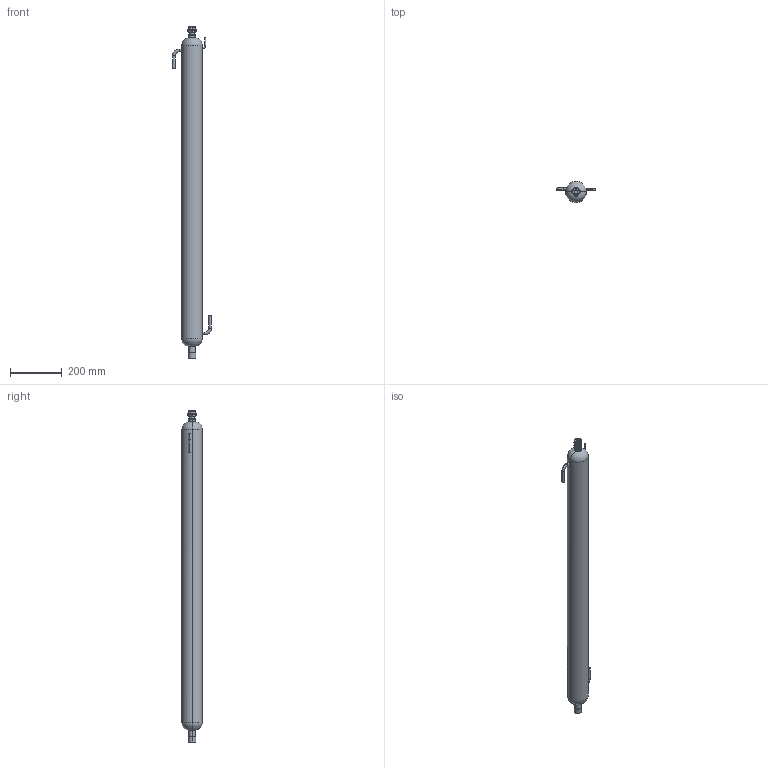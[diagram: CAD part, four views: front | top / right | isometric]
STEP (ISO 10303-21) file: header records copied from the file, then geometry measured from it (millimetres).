
FILE_DESCRIPTION (( 'STEP AP214' ), '1' );
FILE_NAME ('80W-1280-80蚾饜极.STEP', '2024-03-06T08:46:44', ( 'Microwin10' ), ( '' ), 'SwSTEP 2.0', 'SolidWorks 2020', '' );
FILE_SCHEMA (( 'AUTOMOTIVE_DESIGN' ));
Length unit declared in the file: millimetre
Products named in the file (3): 80俓-1280-80; 80W-1280-80蚾饜极; 苤錨璃
Assembly tree (2 placements, depth 2):
  80W-1280-80蚾饜极
    80俓-1280-80
    苤錨璃
Bounding box: 150 x 80 x 1280 mm (x, y, z)
Volume: 5956636.6 mm3; surface area: 323034.6 mm2
Topology: 3 solids, 3 shells, 428 faces, 1188 edges, 732 vertices
Faces by surface type: cylinder 238, plane 94, bspline 60, torus 20, cone 16
Entity records: 56298 total; most frequent: CARTESIAN_POINT 47092, ORIENTED_EDGE 2368, DIRECTION 1428, EDGE_CURVE 1184, VERTEX_POINT 732, AXIS2_PLACEMENT_3D 537, EDGE_LOOP 456, FACE_OUTER_BOUND 428
